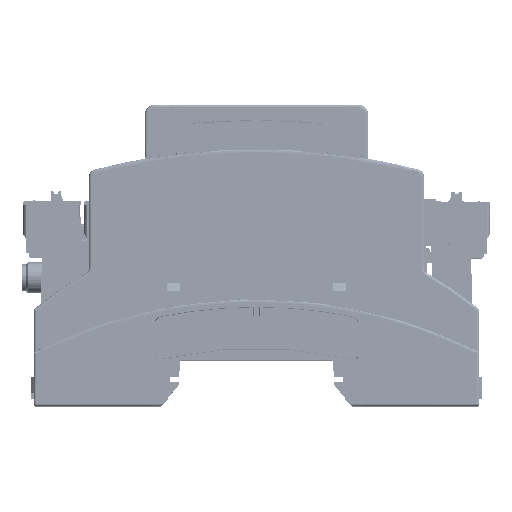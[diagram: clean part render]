
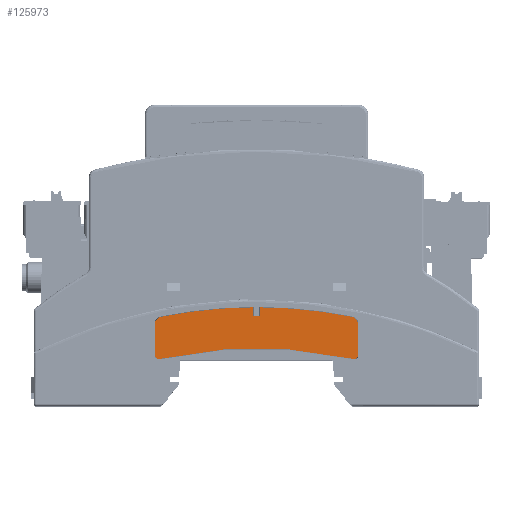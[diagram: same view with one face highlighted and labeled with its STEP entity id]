
A CAD part, top view. The second image highlights one B-rep face of the part: STEP entity #125973.
In plain terms, the highlighted planar face has unit normal (0, 0, 1).
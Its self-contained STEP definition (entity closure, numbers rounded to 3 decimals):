
#43438 = EDGE_CURVE ( 'NONE', #63323, #63329, #119584, .T. ) ;
#43733 = EDGE_CURVE ( 'NONE', #63321, #63323, #132823, .T. ) ;
#44006 = EDGE_CURVE ( 'NONE', #63341, #164578, #120053, .T. ) ;
#44020 = EDGE_CURVE ( 'NONE', #63301, #63321, #120075, .T. ) ;
#44299 = EDGE_CURVE ( 'NONE', #63339, #63341, #120260, .T. ) ;
#44309 = EDGE_CURVE ( 'NONE', #62761, #63301, #120266, .T. ) ;
#44787 = EDGE_CURVE ( 'NONE', #63335, #63339, #136656, .T. ) ;
#45025 = EDGE_CURVE ( 'NONE', #63310, #63335, #120990, .T. ) ;
#45268 = EDGE_CURVE ( 'NONE', #63310, #63329, #121231, .T. ) ;
#62332 = VERTEX_POINT ( 'NONE', #71538 ) ;
#62761 = VERTEX_POINT ( 'NONE', #71908 ) ;
#63301 = VERTEX_POINT ( 'NONE', #72329 ) ;
#63310 = VERTEX_POINT ( 'NONE', #72341 ) ;
#63321 = VERTEX_POINT ( 'NONE', #72339 ) ;
#63323 = VERTEX_POINT ( 'NONE', #72351 ) ;
#63329 = VERTEX_POINT ( 'NONE', #72343 ) ;
#63335 = VERTEX_POINT ( 'NONE', #72359 ) ;
#63339 = VERTEX_POINT ( 'NONE', #72353 ) ;
#63341 = VERTEX_POINT ( 'NONE', #72364 ) ;
#71538 = CARTESIAN_POINT ( 'NONE',  ( -0.731, 12.2, 106.8 ) ) ;
#71908 = CARTESIAN_POINT ( 'NONE',  ( -0.731, 13.91, 106.8 ) ) ;
#72329 = CARTESIAN_POINT ( 'NONE',  ( -19.278, 11.994, 106.8 ) ) ;
#72339 = CARTESIAN_POINT ( 'NONE',  ( -20.413, 10.609, 106.8 ) ) ;
#72341 = CARTESIAN_POINT ( 'NONE',  ( 19.545, 3.53, 106.8 ) ) ;
#72343 = CARTESIAN_POINT ( 'NONE',  ( -19.545, 3.53, 106.8 ) ) ;
#72351 = CARTESIAN_POINT ( 'NONE',  ( -20.413, 4.225, 106.8 ) ) ;
#72353 = CARTESIAN_POINT ( 'NONE',  ( 20.413, 10.609, 106.8 ) ) ;
#72359 = CARTESIAN_POINT ( 'NONE',  ( 20.413, 4.225, 106.8 ) ) ;
#72364 = CARTESIAN_POINT ( 'NONE',  ( 19.278, 11.994, 106.8 ) ) ;
#75998 = CARTESIAN_POINT ( 'NONE',  ( 0.731, 13.91, 106.8 ) ) ;
#76006 = CARTESIAN_POINT ( 'NONE',  ( 0.731, 12.2, 106.8 ) ) ;
#119584 = CIRCLE ( 'NONE', #119603, 0.713 ) ;
#119603 = AXIS2_PLACEMENT_3D ( 'NONE', #131686, #131688, #131692 ) ;
#119836 = VECTOR ( 'NONE', #132842, 1000. ) ;
#120053 = CIRCLE ( 'NONE', #120072, 97.813 ) ;
#120072 = AXIS2_PLACEMENT_3D ( 'NONE', #133888, #133893, #133897 ) ;
#120075 = CIRCLE ( 'NONE', #120083, 1.413 ) ;
#120083 = AXIS2_PLACEMENT_3D ( 'NONE', #133949, #133952, #133955 ) ;
#120260 = CIRCLE ( 'NONE', #120264, 1.413 ) ;
#120264 = AXIS2_PLACEMENT_3D ( 'NONE', #135042, #135044, #135048 ) ;
#120266 = CIRCLE ( 'NONE', #120273, 97.813 ) ;
#120273 = AXIS2_PLACEMENT_3D ( 'NONE', #135084, #135088, #135091 ) ;
#120768 = VECTOR ( 'NONE', #136687, 1000. ) ;
#120990 = CIRCLE ( 'NONE', #120999, 0.713 ) ;
#120999 = AXIS2_PLACEMENT_3D ( 'NONE', #137531, #137534, #137537 ) ;
#121231 = CIRCLE ( 'NONE', #121236, 89.587 ) ;
#121236 = AXIS2_PLACEMENT_3D ( 'NONE', #138328, #138330, #138333 ) ;
#123039 = ORIENTED_EDGE ( 'NONE', *, *, #238724, .T. ) ;
#123040 = ORIENTED_EDGE ( 'NONE', *, *, #236769, .T. ) ;
#123042 = ORIENTED_EDGE ( 'NONE', *, *, #44309, .T. ) ;
#123043 = ORIENTED_EDGE ( 'NONE', *, *, #44020, .T. ) ;
#123044 = ORIENTED_EDGE ( 'NONE', *, *, #43733, .T. ) ;
#123046 = ORIENTED_EDGE ( 'NONE', *, *, #43438, .T. ) ;
#123047 = ORIENTED_EDGE ( 'NONE', *, *, #45268, .F. ) ;
#123048 = ORIENTED_EDGE ( 'NONE', *, *, #45025, .T. ) ;
#123050 = ORIENTED_EDGE ( 'NONE', *, *, #44787, .T. ) ;
#123051 = ORIENTED_EDGE ( 'NONE', *, *, #44299, .T. ) ;
#123052 = ORIENTED_EDGE ( 'NONE', *, *, #44006, .T. ) ;
#123053 = ORIENTED_EDGE ( 'NONE', *, *, #238973, .T. ) ;
#125973 = ADVANCED_FACE ( 'NONE', ( #282200 ), #282166, .T. ) ;
#131686 = CARTESIAN_POINT ( 'NONE',  ( -19.7, 4.225, 106.8 ) ) ;
#131688 = DIRECTION ( 'NONE',  ( 0., 0., 1. ) ) ;
#131692 = DIRECTION ( 'NONE',  ( 1., 0., 0. ) ) ;
#132754 = CARTESIAN_POINT ( 'NONE',  ( -20.413, 10.609, 106.8 ) ) ;
#132823 = LINE ( 'NONE', #132754, #119836 ) ;
#132842 = DIRECTION ( 'NONE',  ( 0., -1., 0. ) ) ;
#133888 = CARTESIAN_POINT ( 'NONE',  ( 0., -83.9, 106.8 ) ) ;
#133893 = DIRECTION ( 'NONE',  ( 0., 0., 1. ) ) ;
#133897 = DIRECTION ( 'NONE',  ( 1., 0., 0. ) ) ;
#133949 = CARTESIAN_POINT ( 'NONE',  ( -19., 10.609, 106.8 ) ) ;
#133952 = DIRECTION ( 'NONE',  ( 0., 0., 1. ) ) ;
#133955 = DIRECTION ( 'NONE',  ( 1., 0., 0. ) ) ;
#135042 = CARTESIAN_POINT ( 'NONE',  ( 19., 10.609, 106.8 ) ) ;
#135044 = DIRECTION ( 'NONE',  ( 0., 0., 1. ) ) ;
#135048 = DIRECTION ( 'NONE',  ( 1., 0., 0. ) ) ;
#135084 = CARTESIAN_POINT ( 'NONE',  ( 0., -83.9, 106.8 ) ) ;
#135088 = DIRECTION ( 'NONE',  ( 0., 0., 1. ) ) ;
#135091 = DIRECTION ( 'NONE',  ( 1., 0., 0. ) ) ;
#136656 = LINE ( 'NONE', #136679, #120768 ) ;
#136679 = CARTESIAN_POINT ( 'NONE',  ( 20.413, 4.225, 106.8 ) ) ;
#136687 = DIRECTION ( 'NONE',  ( 0., 1., 0. ) ) ;
#137531 = CARTESIAN_POINT ( 'NONE',  ( 19.7, 4.225, 106.8 ) ) ;
#137534 = DIRECTION ( 'NONE',  ( 0., 0., 1. ) ) ;
#137537 = DIRECTION ( 'NONE',  ( 1., 0., 0. ) ) ;
#138328 = CARTESIAN_POINT ( 'NONE',  ( 0., -83.9, 106.8 ) ) ;
#138330 = DIRECTION ( 'NONE',  ( 0., 0., 1. ) ) ;
#138333 = DIRECTION ( 'NONE',  ( -1., 0., 0. ) ) ;
#164578 = VERTEX_POINT ( 'NONE', #75998 ) ;
#164610 = VERTEX_POINT ( 'NONE', #76006 ) ;
#236769 = EDGE_CURVE ( 'NONE', #62332, #62761, #266895, .T. ) ;
#236943 = EDGE_LOOP ( 'NONE', ( #123039, #123040, #123042, #123043, #123044, #123046, #123047, #123048, #123050, #123051, #123052, #123053 ) ) ;
#238724 = EDGE_CURVE ( 'NONE', #164610, #62332, #308435, .T. ) ;
#238973 = EDGE_CURVE ( 'NONE', #164578, #164610, #310620, .T. ) ;
#266895 = LINE ( 'NONE', #266896, #268292 ) ;
#266896 = CARTESIAN_POINT ( 'NONE',  ( -0.731, -1.386, 106.8 ) ) ;
#266899 = DIRECTION ( 'NONE',  ( 0., 1., 0. ) ) ;
#268292 = VECTOR ( 'NONE', #266899, 1000. ) ;
#282166 = PLANE ( 'NONE',  #284391 ) ;
#282200 = FACE_OUTER_BOUND ( 'NONE', #236943, .T. ) ;
#282319 = CARTESIAN_POINT ( 'NONE',  ( -32.601, -1.386, 106.8 ) ) ;
#282324 = DIRECTION ( 'NONE',  ( 0., 0., 1. ) ) ;
#282329 = DIRECTION ( 'NONE',  ( 1., 0., 0. ) ) ;
#284391 = AXIS2_PLACEMENT_3D ( 'NONE', #282319, #282324, #282329 ) ;
#305860 = VECTOR ( 'NONE', #308437, 1000. ) ;
#306113 = VECTOR ( 'NONE', #310625, 1000. ) ;
#308435 = LINE ( 'NONE', #308436, #305860 ) ;
#308436 = CARTESIAN_POINT ( 'NONE',  ( -32.601, 12.2, 106.8 ) ) ;
#308437 = DIRECTION ( 'NONE',  ( -1., 0., 0. ) ) ;
#310620 = LINE ( 'NONE', #310623, #306113 ) ;
#310623 = CARTESIAN_POINT ( 'NONE',  ( 0.731, 12.2, 106.8 ) ) ;
#310625 = DIRECTION ( 'NONE',  ( 0., -1., 0. ) ) ;
